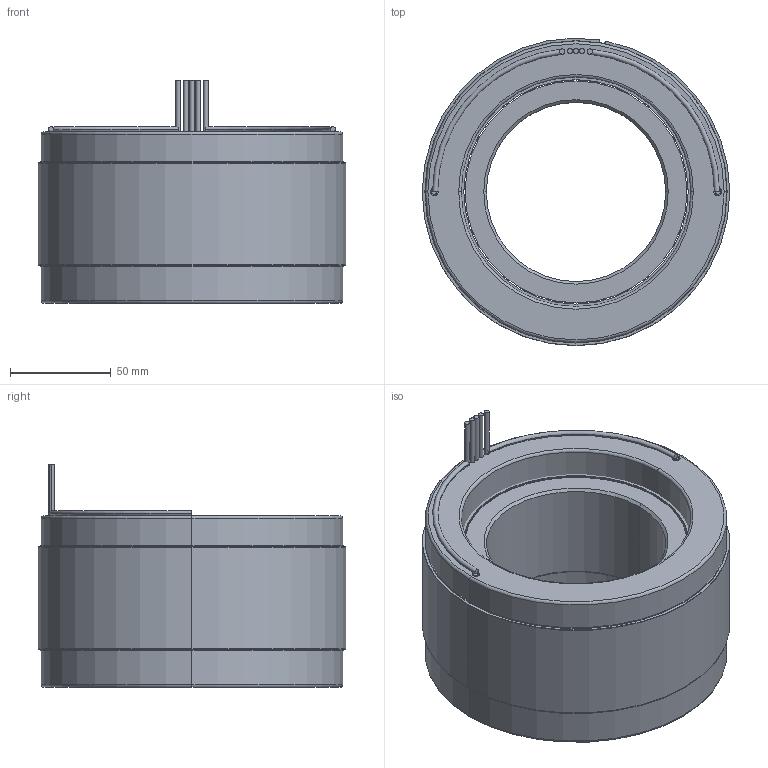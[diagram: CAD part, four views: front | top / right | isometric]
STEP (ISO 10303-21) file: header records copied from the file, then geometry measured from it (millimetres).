
FILE_DESCRIPTION (( 'STEP AP214' ), '1' );
FILE_NAME ('6100338-01.STEP', '2019-10-23T22:30:10', ( '' ), ( '' ), 'SwSTEP 2.0', 'SolidWorks 2016', '' );
FILE_SCHEMA (( 'AUTOMOTIVE_DESIGN' ));
Length unit declared in the file: millimetre
Products named in the file (12): 4150168-XX_4150168-01; 4400094-00; 3100410-00_INSTALLED; COMP4500541-XX(COIL)_COMP4500541-01(COIL); 6100338-01; 4450181-XX_4450181-01; 4250362-XX_4250362-01; 4500541-XX_4500541-01; 4600554-00
Assembly tree (12 placements, depth 4):
  6100338-01
    4250362-XX_4250362-01
      4150168-XX_4150168-01
    4500541-XX_4500541-01
      4450181-XX_4450181-01
        4450181-XX_4450181-01
        4400094-00
        4400094-00
        4600554-00
        4600554-00
      COMP4500541-XX(COIL)_COMP4500541-01(COIL)
      3100410-00_INSTALLED  x2
Bounding box: 152.4 x 152.39 x 110.49 mm (x, y, z)
Volume: 1234065.5 mm3; surface area: 251107.5 mm2
Topology: 20 solids, 20 shells, 128 faces, 246 edges, 160 vertices
Faces by surface type: cylinder 58, plane 54, torus 12, cone 4
Entity records: 3627 total; most frequent: DIRECTION 616, CARTESIAN_POINT 486, ORIENTED_EDGE 432, AXIS2_PLACEMENT_3D 270, EDGE_CURVE 216, VERTEX_POINT 140, CIRCLE 140, EDGE_LOOP 128
